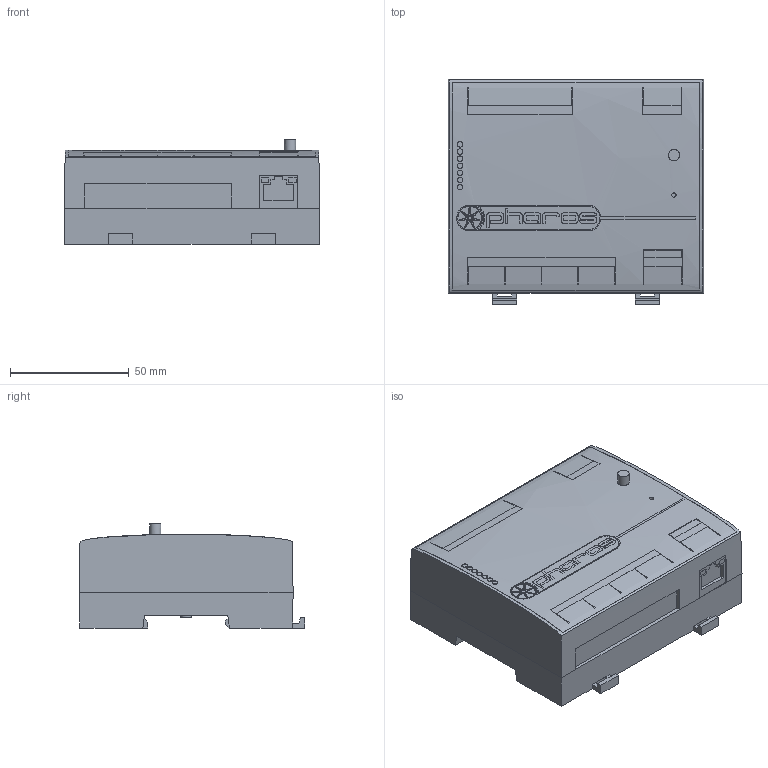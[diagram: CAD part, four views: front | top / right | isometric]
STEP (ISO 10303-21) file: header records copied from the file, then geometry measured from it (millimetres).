
FILE_DESCRIPTION(('STEP AP242 Edition 2','STEP AP242 Edition 2''CAx-IF Rec.Pracs.---Representation and Presentation of Product Manufacturing Information (PMI)---4.0---2014-10-13','STEP AP242 Edition 2''CAx-IF Rec.Pracs.---Representation and Presentation of Product Manufacturing Information (PMI)---4.0---2014-10-13''CAx-IF Rec.Pracs.---3D Tessellated Geometry---0.4---2014-09-14','STEP AP242 Edition 2''CAx-IF Rec.Pracs.---Representation and Presentation of Product Manufacturing Information (PMI)---4.0---2014-10-13''CAx-IF Rec.Pracs.---3D Tessellated Geometry---0.4---2014-09-14''2;1','STEP AP242 Edition 2''CAx-IF Rec.Pracs.---Representation and Presentation of Product Manufacturing Information (PMI)---4.0---2014-10-13''CAx-IF Rec.Pracs.---3D Tessellated Geometry---0.4---2014-09-14''2;1''CAx-IF Rec.Pracs.---User Defined Attributes---1.5---2016-08-15'),'2;1');
FILE_NAME('/vol/tmp/translate-9073432537328392931/DIN_abs.step','2026-03-24T16:11:59',(''),(''),'ST-DEVELOPER v20','ONSHAPE BY PTC INC, 1.212',' ');
FILE_SCHEMA(('AP242_MANAGED_MODEL_BASED_3D_ENGINEERING_MIM_LF { 1 0 10303 442 3 1 4 }'));
Length unit declared in the file: metre
Products named in the file (1): RIO84
Bounding box: 107.5 x 94.94 x 43.84 mm (x, y, z)
Volume: 349234.1 mm3; surface area: 36378.5 mm2
Topology: 1 solids, 1 shells, 374 faces, 921 edges, 611 vertices
Faces by surface type: plane 232, cylinder 132, bspline 10
Full cylindrical faces by diameter (mm): 0.544 x7, 0.705 x7, 0.866 x7, 0.99 x7, 1.485 x1, 1.8 x1, 2.3 x7, 4.6 x2, 4.8 x1, 9.9 x1, 10.782 x1
Entity records: 17260 total; most frequent: CARTESIAN_POINT 8167, ORIENTED_EDGE 1744, DIRECTION 1404, EDGE_CURVE 872, VERTEX_POINT 604, LINE 590, VECTOR 590, EDGE_LOOP 482
